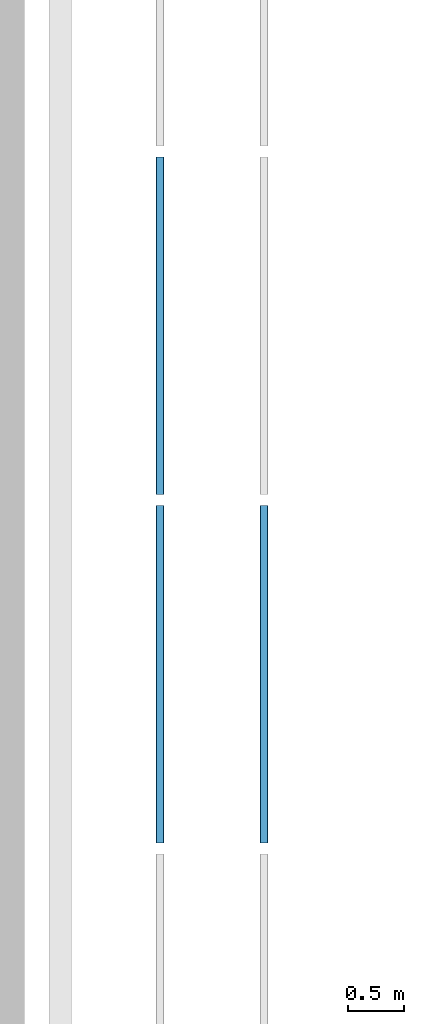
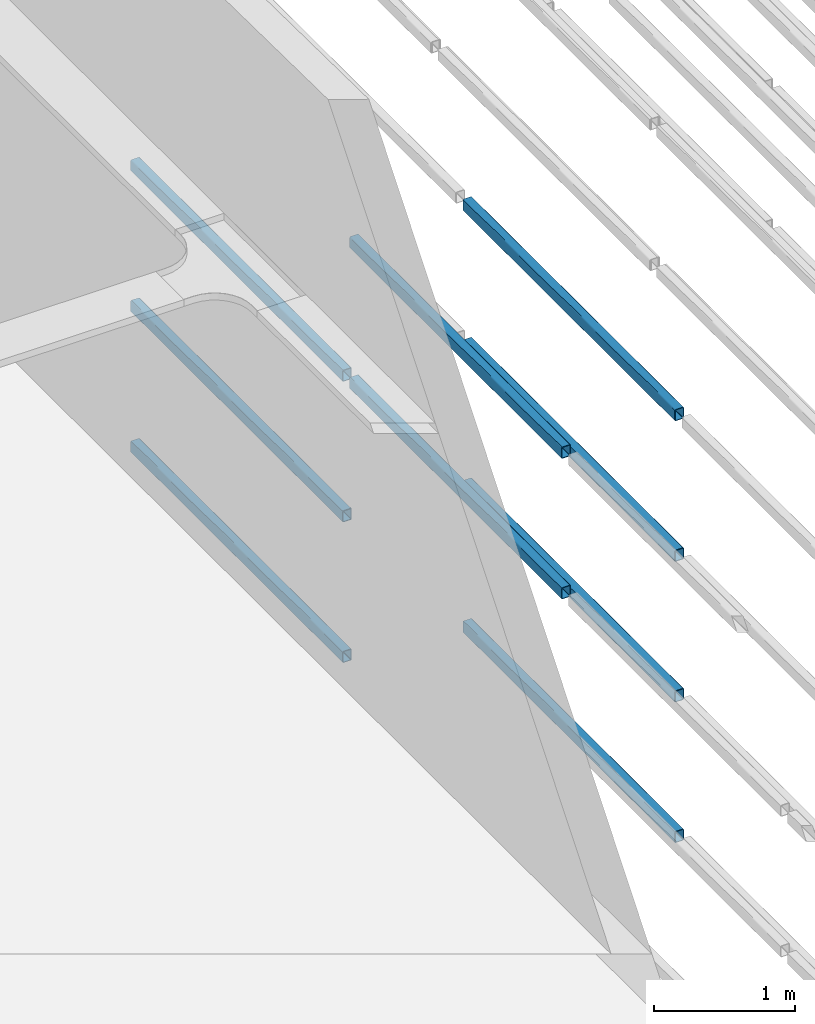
# One storey, part 11 of 290: 9 beams.
"""IFC2X3 building model written with IfcOpenShell, lengths in metres."""

from ifc_helpers import new_model, entity, si_unit, converted_unit, derived_unit, direction, frame, frame_2d, origin, place, context, subcontext, project, spatial, polyline, circle_curve, parameter, trimmed, segment, composite_curve, outline, extrude, material, type_object, element, save


model = new_model("IFC2X3")

# Units and contexts
model_context = context("Model", 3, precision=1e-05, world=origin(), true_north=direction((6.12303176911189e-17, 1.0)))
body_context = subcontext(model_context, "Body", "Model", "MODEL_VIEW")
ifc_project = project(units=[si_unit("LENGTHUNIT", "METRE"), si_unit("AREAUNIT", "SQUARE_METRE"), si_unit("VOLUMEUNIT", "CUBIC_METRE"), converted_unit("PLANEANGLEUNIT", "DEGREE", entity("IfcRatioMeasure", 0.0174532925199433), si_unit("PLANEANGLEUNIT", "RADIAN"), dimensions=[0, 0, 0, 0, 0, 0, 0]), si_unit("MASSUNIT", "GRAM", prefix="KILO"), derived_unit("MASSDENSITYUNIT", [(si_unit("MASSUNIT", "GRAM", prefix="KILO"), 1), (si_unit("LENGTHUNIT", "METRE"), -3)]), derived_unit("MOMENTOFINERTIAUNIT", [(si_unit("LENGTHUNIT", "METRE"), 4)]), si_unit("TIMEUNIT", "SECOND"), si_unit("FREQUENCYUNIT", "HERTZ"), si_unit("THERMODYNAMICTEMPERATUREUNIT", "DEGREE_CELSIUS"), derived_unit("THERMALTRANSMITTANCEUNIT", [(si_unit("MASSUNIT", "GRAM", prefix="KILO"), 1), (si_unit("THERMODYNAMICTEMPERATUREUNIT", "KELVIN"), -1), (si_unit("TIMEUNIT", "SECOND"), -3)]), derived_unit("VOLUMETRICFLOWRATEUNIT", [(si_unit("LENGTHUNIT", "METRE"), 3), (si_unit("TIMEUNIT", "SECOND"), -1)]), si_unit("ELECTRICCURRENTUNIT", "AMPERE"), si_unit("ELECTRICVOLTAGEUNIT", "VOLT"), si_unit("POWERUNIT", "WATT"), si_unit("FORCEUNIT", "NEWTON", prefix="KILO"), si_unit("ILLUMINANCEUNIT", "LUX"), si_unit("LUMINOUSFLUXUNIT", "LUMEN"), si_unit("LUMINOUSINTENSITYUNIT", "CANDELA"), derived_unit("USERDEFINED", [(si_unit("MASSUNIT", "GRAM", prefix="KILO"), -1), (si_unit("LENGTHUNIT", "METRE"), -2), (si_unit("TIMEUNIT", "SECOND"), 3), (si_unit("LUMINOUSFLUXUNIT", "LUMEN"), 1)]), derived_unit("LINEARVELOCITYUNIT", [(si_unit("LENGTHUNIT", "METRE"), 1), (si_unit("TIMEUNIT", "SECOND"), -1)]), si_unit("PRESSUREUNIT", "PASCAL"), derived_unit("USERDEFINED", [(si_unit("LENGTHUNIT", "METRE"), -2), (si_unit("MASSUNIT", "GRAM", prefix="KILO"), 1), (si_unit("TIMEUNIT", "SECOND"), -2)]), derived_unit("LINEARFORCEUNIT", [(si_unit("MASSUNIT", "GRAM", prefix="KILO"), 1), (si_unit("LENGTHUNIT", "METRE"), 1), (si_unit("TIMEUNIT", "SECOND"), -2), (si_unit("LENGTHUNIT", "METRE"), -1)]), derived_unit("PLANARFORCEUNIT", [(si_unit("MASSUNIT", "GRAM", prefix="KILO"), 1), (si_unit("LENGTHUNIT", "METRE"), 1), (si_unit("TIMEUNIT", "SECOND"), -2), (si_unit("LENGTHUNIT", "METRE"), -2)])], contexts=[model_context])

# Site, building, storey
site_placement = place(None, origin())
site = spatial("IfcSite", under=ifc_project, at=site_placement, Name="Default", CompositionType="ELEMENT")
building_placement = place(site_placement, origin())
building = spatial("IfcBuilding", under=site, at=building_placement, CompositionType="ELEMENT")
storey_placement = place(building_placement, frame((0.0, 0.0, 4.0)))
storey = spatial("IfcBuildingStorey", under=building, at=storey_placement, Name="01_OG", CompositionType="ELEMENT", Elevation=4.0)

# Beams
ifc_material = material(Name="Metall - Baustahl S235 blau")
beam_type = type_object("IfcBeamType", Name="RHS Träger (EN 10219-2):RHS 100 x 75 x 5", PredefinedType="NOTDEFINED")
beam_1_placement = place(storey_placement, frame((-206.415111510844, 33.348088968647, 1.23), z_axis=(0.0, 0.0, 1.0), x_axis=(0.0, 1.0, 0.0)))
element("IfcBeam", 1, at=beam_1_placement, inside=storey, type_object=beam_type, material=ifc_material, Name="RHS Träger (EN 10219-2):RHS 100 x 75 x 5", ObjectType="RHS Träger (EN 10219-2):RHS 100 x 75 x 5", context=body_context, shape_type="SweptSolid", body=[
    extrude(outline(composite_curve([segment(trimmed(circle_curve(frame_2d((-0.0274999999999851, -0.0399999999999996), x_axis=(1.0, 0.0)), 0.01), [parameter(180.0)], [parameter(270.0)], True, "PARAMETER"), True, "CONTINUOUS"), segment(polyline([(-0.0274999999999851, -0.0499999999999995), (0.0274999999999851, -0.0499999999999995)]), True, "CONTINUOUS"), segment(trimmed(circle_curve(frame_2d((0.0274999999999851, -0.0399999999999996), x_axis=(1.0, 0.0)), 0.01), [parameter(270.0)], [parameter(5.08888749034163e-14)], True, "PARAMETER"), True, "CONTINUOUS"), segment(polyline([(0.0375000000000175, -0.0399999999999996), (0.0375000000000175, 0.0399999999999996)]), True, "CONTINUOUS"), segment(trimmed(circle_curve(frame_2d((0.0274999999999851, 0.0399999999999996), x_axis=(1.0, 0.0)), 0.01), [parameter(360.0)], [parameter(89.9999999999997)], True, "PARAMETER"), True, "CONTINUOUS"), segment(polyline([(0.0274999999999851, 0.0500000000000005), (-0.0274999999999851, 0.0500000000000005)]), True, "CONTINUOUS"), segment(trimmed(circle_curve(frame_2d((-0.0274999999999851, 0.0399999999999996), x_axis=(1.0, 0.0)), 0.01), [parameter(90.0000000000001)], [parameter(180.0)], True, "PARAMETER"), True, "CONTINUOUS"), segment(polyline([(-0.0374999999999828, 0.0399999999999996), (-0.0374999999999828, -0.0399999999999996)]), True, "CONTINUOUS")], self_intersect=False), holes=[composite_curve([segment(polyline([(0.0274999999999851, -0.0450000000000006), (-0.0274999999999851, -0.0450000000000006)]), True, "CONTINUOUS"), segment(trimmed(circle_curve(frame_2d((-0.0274999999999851, -0.0400000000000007), x_axis=(1.0, 0.0)), 0.005), [parameter(180.0)], [parameter(270.0)], True, "PARAMETER"), False, "CONTINUOUS"), segment(polyline([(-0.0325000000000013, -0.0400000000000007), (-0.0325000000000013, 0.0399999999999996)]), True, "CONTINUOUS"), segment(trimmed(circle_curve(frame_2d((-0.0274999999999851, 0.0399999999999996), x_axis=(1.0, 0.0)), 0.005), [parameter(90.0000000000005)], [parameter(180.0)], True, "PARAMETER"), False, "CONTINUOUS"), segment(polyline([(-0.0274999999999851, 0.0449999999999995), (0.0274999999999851, 0.0449999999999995)]), True, "CONTINUOUS"), segment(trimmed(circle_curve(frame_2d((0.0274999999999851, 0.0399999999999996), x_axis=(1.0, 0.0)), 0.005), [parameter(0.0)], [parameter(90.0000000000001)], True, "PARAMETER"), False, "CONTINUOUS"), segment(polyline([(0.0325000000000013, 0.0399999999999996), (0.0325000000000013, -0.0400000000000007)]), True, "CONTINUOUS"), segment(trimmed(circle_curve(frame_2d((0.0274999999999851, -0.0400000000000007), x_axis=(1.0, 0.0)), 0.005), [parameter(270.0)], [parameter(4.07110999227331e-13)], True, "PARAMETER"), False, "CONTINUOUS")], self_intersect=False)]), frame((9.99999999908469e-05, 0.0375000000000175, -0.0500000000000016), z_axis=(1.0, 0.0, 0.0), x_axis=(0.0, -1.0, 0.0)), (0.0, 0.0, 1.0), 2.9998),
])
beam_2_placement = place(storey_placement, frame((-206.415111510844, 33.348088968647, 2.445), z_axis=(0.0, 0.0, 1.0), x_axis=(0.0, 1.0, 0.0)))
element("IfcBeam", 2, at=beam_2_placement, inside=storey, type_object=beam_type, material=ifc_material, Name="RHS Träger (EN 10219-2):RHS 100 x 75 x 5", ObjectType="RHS Träger (EN 10219-2):RHS 100 x 75 x 5", context=body_context, shape_type="SweptSolid", body=[
    extrude(outline(composite_curve([segment(trimmed(circle_curve(frame_2d((-0.0274999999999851, -0.0399999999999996), x_axis=(1.0, 0.0)), 0.01), [parameter(180.0)], [parameter(270.0)], True, "PARAMETER"), True, "CONTINUOUS"), segment(polyline([(-0.0274999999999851, -0.0499999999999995), (0.0274999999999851, -0.0499999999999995)]), True, "CONTINUOUS"), segment(trimmed(circle_curve(frame_2d((0.0274999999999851, -0.0399999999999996), x_axis=(1.0, 0.0)), 0.01), [parameter(270.0)], [parameter(5.08888749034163e-14)], True, "PARAMETER"), True, "CONTINUOUS"), segment(polyline([(0.0375000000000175, -0.0399999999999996), (0.0375000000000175, 0.0399999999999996)]), True, "CONTINUOUS"), segment(trimmed(circle_curve(frame_2d((0.0274999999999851, 0.0399999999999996), x_axis=(1.0, 0.0)), 0.01), [parameter(360.0)], [parameter(89.9999999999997)], True, "PARAMETER"), True, "CONTINUOUS"), segment(polyline([(0.0274999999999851, 0.0500000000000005), (-0.0274999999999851, 0.0500000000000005)]), True, "CONTINUOUS"), segment(trimmed(circle_curve(frame_2d((-0.0274999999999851, 0.0399999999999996), x_axis=(1.0, 0.0)), 0.01), [parameter(90.0000000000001)], [parameter(180.0)], True, "PARAMETER"), True, "CONTINUOUS"), segment(polyline([(-0.0374999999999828, 0.0399999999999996), (-0.0374999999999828, -0.0399999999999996)]), True, "CONTINUOUS")], self_intersect=False), holes=[composite_curve([segment(polyline([(0.0274999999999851, -0.0450000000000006), (-0.0274999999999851, -0.0450000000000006)]), True, "CONTINUOUS"), segment(trimmed(circle_curve(frame_2d((-0.0274999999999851, -0.0400000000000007), x_axis=(1.0, 0.0)), 0.005), [parameter(180.0)], [parameter(270.0)], True, "PARAMETER"), False, "CONTINUOUS"), segment(polyline([(-0.0325000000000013, -0.0400000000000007), (-0.0325000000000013, 0.0399999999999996)]), True, "CONTINUOUS"), segment(trimmed(circle_curve(frame_2d((-0.0274999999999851, 0.0399999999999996), x_axis=(1.0, 0.0)), 0.005), [parameter(90.0000000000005)], [parameter(180.0)], True, "PARAMETER"), False, "CONTINUOUS"), segment(polyline([(-0.0274999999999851, 0.0449999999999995), (0.0274999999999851, 0.0449999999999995)]), True, "CONTINUOUS"), segment(trimmed(circle_curve(frame_2d((0.0274999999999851, 0.0399999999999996), x_axis=(1.0, 0.0)), 0.005), [parameter(0.0)], [parameter(90.0000000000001)], True, "PARAMETER"), False, "CONTINUOUS"), segment(polyline([(0.0325000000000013, 0.0399999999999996), (0.0325000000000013, -0.0400000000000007)]), True, "CONTINUOUS"), segment(trimmed(circle_curve(frame_2d((0.0274999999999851, -0.0400000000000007), x_axis=(1.0, 0.0)), 0.005), [parameter(270.0)], [parameter(4.07110999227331e-13)], True, "PARAMETER"), False, "CONTINUOUS")], self_intersect=False)]), frame((9.99999999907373e-05, 0.0375000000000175, -0.0500000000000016), z_axis=(1.0, 0.0, 0.0), x_axis=(0.0, -1.0, 0.0)), (0.0, 0.0, 1.0), 2.9998),
])
beam_3_placement = place(storey_placement, frame((-205.565111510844, 33.348088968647, -1.2), z_axis=(0.0, 0.0, 1.0), x_axis=(0.0, 1.0, 0.0)))
element("IfcBeam", 3, at=beam_3_placement, inside=storey, type_object=beam_type, material=ifc_material, Name="RHS Träger (EN 10219-2):RHS 100 x 75 x 5", ObjectType="RHS Träger (EN 10219-2):RHS 100 x 75 x 5", context=body_context, shape_type="SweptSolid", body=[
    extrude(outline(composite_curve([segment(polyline([(-0.0400000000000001, -0.0374999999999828), (0.0400000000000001, -0.0374999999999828)]), True, "CONTINUOUS"), segment(trimmed(circle_curve(frame_2d((0.0400000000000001, -0.0274999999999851), x_axis=(0.0, 1.0)), 0.01), [parameter(180.0)], [parameter(270.0)], True, "PARAMETER"), True, "CONTINUOUS"), segment(polyline([(0.05, -0.0274999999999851), (0.05, 0.0274999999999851)]), True, "CONTINUOUS"), segment(trimmed(circle_curve(frame_2d((0.0400000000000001, 0.0274999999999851), x_axis=(0.0, 1.0)), 0.01), [parameter(270.0)], [parameter(4.07110999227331e-13)], True, "PARAMETER"), True, "CONTINUOUS"), segment(polyline([(0.0400000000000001, 0.0375000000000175), (-0.0400000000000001, 0.0375000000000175)]), True, "CONTINUOUS"), segment(trimmed(circle_curve(frame_2d((-0.0400000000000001, 0.0274999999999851), x_axis=(0.0, 1.0)), 0.01), [parameter(360.0)], [parameter(90.0000000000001)], True, "PARAMETER"), True, "CONTINUOUS"), segment(polyline([(-0.05, 0.0274999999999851), (-0.05, -0.0274999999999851)]), True, "CONTINUOUS"), segment(trimmed(circle_curve(frame_2d((-0.0400000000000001, -0.0274999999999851), x_axis=(0.0, 1.0)), 0.01), [parameter(90.0000000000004)], [parameter(180.0)], True, "PARAMETER"), True, "CONTINUOUS")], self_intersect=False), holes=[composite_curve([segment(trimmed(circle_curve(frame_2d((-0.0400000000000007, 0.0274999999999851), x_axis=(0.0, 1.0)), 0.005), [parameter(360.0)], [parameter(89.9999999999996)], True, "PARAMETER"), False, "CONTINUOUS"), segment(polyline([(-0.0400000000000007, 0.0325000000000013), (0.039999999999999, 0.0325000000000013)]), True, "CONTINUOUS"), segment(trimmed(circle_curve(frame_2d((0.039999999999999, 0.0274999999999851), x_axis=(0.0, 1.0)), 0.005), [parameter(270.0)], [parameter(0.0)], True, "PARAMETER"), False, "CONTINUOUS"), segment(polyline([(0.044999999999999, 0.0274999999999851), (0.044999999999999, -0.0274999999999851)]), True, "CONTINUOUS"), segment(trimmed(circle_curve(frame_2d((0.039999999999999, -0.0274999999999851), x_axis=(0.0, 1.0)), 0.005), [parameter(180.0)], [parameter(269.999999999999)], True, "PARAMETER"), False, "CONTINUOUS"), segment(polyline([(0.039999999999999, -0.0325000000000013), (-0.0400000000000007, -0.0325000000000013)]), True, "CONTINUOUS"), segment(trimmed(circle_curve(frame_2d((-0.0400000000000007, -0.0274999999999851), x_axis=(0.0, 1.0)), 0.005), [parameter(90.0000000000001)], [parameter(180.0)], True, "PARAMETER"), False, "CONTINUOUS"), segment(polyline([(-0.0450000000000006, -0.0274999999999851), (-0.0450000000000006, 0.0274999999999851)]), True, "CONTINUOUS")], self_intersect=False)]), frame((9.99999999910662e-05, -0.0375000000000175, -0.0500000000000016), z_axis=(1.0, 0.0, 0.0), x_axis=(0.0, 0.0, -1.0)), (0.0, 0.0, 1.0), 2.9998),
])
beam_4_placement = place(storey_placement, frame((-205.565111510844, 33.348088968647, 0.0150000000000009), z_axis=(0.0, 0.0, 1.0), x_axis=(0.0, 1.0, 0.0)))
element("IfcBeam", 4, at=beam_4_placement, inside=storey, type_object=beam_type, material=ifc_material, Name="RHS Träger (EN 10219-2):RHS 100 x 75 x 5", ObjectType="RHS Träger (EN 10219-2):RHS 100 x 75 x 5", context=body_context, shape_type="SweptSolid", body=[
    extrude(outline(composite_curve([segment(polyline([(-0.0400000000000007, -0.0374999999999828), (0.0399999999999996, -0.0374999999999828)]), True, "CONTINUOUS"), segment(trimmed(circle_curve(frame_2d((0.0399999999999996, -0.0274999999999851), x_axis=(0.0, 1.0)), 0.01), [parameter(180.0)], [parameter(270.0)], True, "PARAMETER"), True, "CONTINUOUS"), segment(polyline([(0.0499999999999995, -0.0274999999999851), (0.0499999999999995, 0.0274999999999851)]), True, "CONTINUOUS"), segment(trimmed(circle_curve(frame_2d((0.0399999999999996, 0.0274999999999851), x_axis=(0.0, 1.0)), 0.01), [parameter(270.0)], [parameter(4.07110999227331e-13)], True, "PARAMETER"), True, "CONTINUOUS"), segment(polyline([(0.0399999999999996, 0.0375000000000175), (-0.0400000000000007, 0.0375000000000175)]), True, "CONTINUOUS"), segment(trimmed(circle_curve(frame_2d((-0.0400000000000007, 0.0274999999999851), x_axis=(0.0, 1.0)), 0.01), [parameter(360.0)], [parameter(90.0000000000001)], True, "PARAMETER"), True, "CONTINUOUS"), segment(polyline([(-0.0500000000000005, 0.0274999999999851), (-0.0500000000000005, -0.0274999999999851)]), True, "CONTINUOUS"), segment(trimmed(circle_curve(frame_2d((-0.0400000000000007, -0.0274999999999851), x_axis=(0.0, 1.0)), 0.01), [parameter(90.0000000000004)], [parameter(180.0)], True, "PARAMETER"), True, "CONTINUOUS")], self_intersect=False), holes=[composite_curve([segment(trimmed(circle_curve(frame_2d((-0.0400000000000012, 0.0274999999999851), x_axis=(0.0, 1.0)), 0.005), [parameter(360.0)], [parameter(89.9999999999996)], True, "PARAMETER"), False, "CONTINUOUS"), segment(polyline([(-0.0400000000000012, 0.0325000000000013), (0.0399999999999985, 0.0325000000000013)]), True, "CONTINUOUS"), segment(trimmed(circle_curve(frame_2d((0.0399999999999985, 0.0274999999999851), x_axis=(0.0, 1.0)), 0.005), [parameter(270.0)], [parameter(0.0)], True, "PARAMETER"), False, "CONTINUOUS"), segment(polyline([(0.0449999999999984, 0.0274999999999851), (0.0449999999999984, -0.0274999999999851)]), True, "CONTINUOUS"), segment(trimmed(circle_curve(frame_2d((0.0399999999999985, -0.0274999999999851), x_axis=(0.0, 1.0)), 0.005), [parameter(180.0)], [parameter(269.999999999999)], True, "PARAMETER"), False, "CONTINUOUS"), segment(polyline([(0.0399999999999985, -0.0325000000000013), (-0.0400000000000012, -0.0325000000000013)]), True, "CONTINUOUS"), segment(trimmed(circle_curve(frame_2d((-0.0400000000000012, -0.0274999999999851), x_axis=(0.0, 1.0)), 0.005), [parameter(90.0000000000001)], [parameter(180.0)], True, "PARAMETER"), False, "CONTINUOUS"), segment(polyline([(-0.0450000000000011, -0.0274999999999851), (-0.0450000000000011, 0.0274999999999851)]), True, "CONTINUOUS")], self_intersect=False)]), frame((9.99999999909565e-05, -0.0375000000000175, -0.0500000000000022), z_axis=(1.0, 0.0, 0.0), x_axis=(0.0, 0.0, -1.0)), (0.0, 0.0, 1.0), 2.9998),
])
beam_5_placement = place(storey_placement, frame((-205.565111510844, 33.348088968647, 1.23), z_axis=(0.0, 0.0, 1.0), x_axis=(0.0, 1.0, 0.0)))
element("IfcBeam", 5, at=beam_5_placement, inside=storey, type_object=beam_type, material=ifc_material, Name="RHS Träger (EN 10219-2):RHS 100 x 75 x 5", ObjectType="RHS Träger (EN 10219-2):RHS 100 x 75 x 5", context=body_context, shape_type="SweptSolid", body=[
    extrude(outline(composite_curve([segment(polyline([(-0.0399999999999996, -0.0374999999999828), (0.0399999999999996, -0.0374999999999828)]), True, "CONTINUOUS"), segment(trimmed(circle_curve(frame_2d((0.0399999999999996, -0.0274999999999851), x_axis=(0.0, 1.0)), 0.01), [parameter(180.0)], [parameter(270.0)], True, "PARAMETER"), True, "CONTINUOUS"), segment(polyline([(0.0500000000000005, -0.0274999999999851), (0.0500000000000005, 0.0274999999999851)]), True, "CONTINUOUS"), segment(trimmed(circle_curve(frame_2d((0.0399999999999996, 0.0274999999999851), x_axis=(0.0, 1.0)), 0.01), [parameter(270.0)], [parameter(4.07110999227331e-13)], True, "PARAMETER"), True, "CONTINUOUS"), segment(polyline([(0.0399999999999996, 0.0375000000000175), (-0.0399999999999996, 0.0375000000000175)]), True, "CONTINUOUS"), segment(trimmed(circle_curve(frame_2d((-0.0399999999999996, 0.0274999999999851), x_axis=(0.0, 1.0)), 0.01), [parameter(360.0)], [parameter(90.0000000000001)], True, "PARAMETER"), True, "CONTINUOUS"), segment(polyline([(-0.0499999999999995, 0.0274999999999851), (-0.0499999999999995, -0.0274999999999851)]), True, "CONTINUOUS"), segment(trimmed(circle_curve(frame_2d((-0.0399999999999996, -0.0274999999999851), x_axis=(0.0, 1.0)), 0.01), [parameter(90.0000000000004)], [parameter(180.0)], True, "PARAMETER"), True, "CONTINUOUS")], self_intersect=False), holes=[composite_curve([segment(trimmed(circle_curve(frame_2d((-0.0400000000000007, 0.0274999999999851), x_axis=(0.0, 1.0)), 0.005), [parameter(360.0)], [parameter(89.9999999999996)], True, "PARAMETER"), False, "CONTINUOUS"), segment(polyline([(-0.0400000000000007, 0.0325000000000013), (0.0399999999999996, 0.0325000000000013)]), True, "CONTINUOUS"), segment(trimmed(circle_curve(frame_2d((0.0399999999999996, 0.0274999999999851), x_axis=(0.0, 1.0)), 0.005), [parameter(270.0)], [parameter(0.0)], True, "PARAMETER"), False, "CONTINUOUS"), segment(polyline([(0.0449999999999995, 0.0274999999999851), (0.0449999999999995, -0.0274999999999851)]), True, "CONTINUOUS"), segment(trimmed(circle_curve(frame_2d((0.0399999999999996, -0.0274999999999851), x_axis=(0.0, 1.0)), 0.005), [parameter(180.0)], [parameter(269.999999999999)], True, "PARAMETER"), False, "CONTINUOUS"), segment(polyline([(0.0399999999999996, -0.0325000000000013), (-0.0400000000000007, -0.0325000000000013)]), True, "CONTINUOUS"), segment(trimmed(circle_curve(frame_2d((-0.0400000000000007, -0.0274999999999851), x_axis=(0.0, 1.0)), 0.005), [parameter(90.0000000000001)], [parameter(180.0)], True, "PARAMETER"), False, "CONTINUOUS"), segment(polyline([(-0.0450000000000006, -0.0274999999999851), (-0.0450000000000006, 0.0274999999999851)]), True, "CONTINUOUS")], self_intersect=False)]), frame((9.99999999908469e-05, -0.0375000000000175, -0.0500000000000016), z_axis=(1.0, 0.0, 0.0), x_axis=(0.0, 0.0, -1.0)), (0.0, 0.0, 1.0), 2.9998),
])
beam_6_placement = place(storey_placement, frame((-205.565111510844, 33.348088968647, 2.445), z_axis=(0.0, 0.0, 1.0), x_axis=(0.0, 1.0, 0.0)))
element("IfcBeam", 6, at=beam_6_placement, inside=storey, type_object=beam_type, material=ifc_material, Name="RHS Träger (EN 10219-2):RHS 100 x 75 x 5", ObjectType="RHS Träger (EN 10219-2):RHS 100 x 75 x 5", context=body_context, shape_type="SweptSolid", body=[
    extrude(outline(composite_curve([segment(polyline([(-0.0399999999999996, -0.0374999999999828), (0.0399999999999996, -0.0374999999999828)]), True, "CONTINUOUS"), segment(trimmed(circle_curve(frame_2d((0.0399999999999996, -0.0274999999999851), x_axis=(0.0, 1.0)), 0.01), [parameter(180.0)], [parameter(270.0)], True, "PARAMETER"), True, "CONTINUOUS"), segment(polyline([(0.0500000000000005, -0.0274999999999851), (0.0500000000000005, 0.0274999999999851)]), True, "CONTINUOUS"), segment(trimmed(circle_curve(frame_2d((0.0399999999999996, 0.0274999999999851), x_axis=(0.0, 1.0)), 0.01), [parameter(270.0)], [parameter(4.07110999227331e-13)], True, "PARAMETER"), True, "CONTINUOUS"), segment(polyline([(0.0399999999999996, 0.0375000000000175), (-0.0399999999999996, 0.0375000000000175)]), True, "CONTINUOUS"), segment(trimmed(circle_curve(frame_2d((-0.0399999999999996, 0.0274999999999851), x_axis=(0.0, 1.0)), 0.01), [parameter(360.0)], [parameter(90.0000000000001)], True, "PARAMETER"), True, "CONTINUOUS"), segment(polyline([(-0.0499999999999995, 0.0274999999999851), (-0.0499999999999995, -0.0274999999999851)]), True, "CONTINUOUS"), segment(trimmed(circle_curve(frame_2d((-0.0399999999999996, -0.0274999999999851), x_axis=(0.0, 1.0)), 0.01), [parameter(90.0000000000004)], [parameter(180.0)], True, "PARAMETER"), True, "CONTINUOUS")], self_intersect=False), holes=[composite_curve([segment(trimmed(circle_curve(frame_2d((-0.0400000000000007, 0.0274999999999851), x_axis=(0.0, 1.0)), 0.005), [parameter(360.0)], [parameter(89.9999999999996)], True, "PARAMETER"), False, "CONTINUOUS"), segment(polyline([(-0.0400000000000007, 0.0325000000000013), (0.0399999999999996, 0.0325000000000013)]), True, "CONTINUOUS"), segment(trimmed(circle_curve(frame_2d((0.0399999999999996, 0.0274999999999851), x_axis=(0.0, 1.0)), 0.005), [parameter(270.0)], [parameter(0.0)], True, "PARAMETER"), False, "CONTINUOUS"), segment(polyline([(0.0449999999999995, 0.0274999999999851), (0.0449999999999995, -0.0274999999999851)]), True, "CONTINUOUS"), segment(trimmed(circle_curve(frame_2d((0.0399999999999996, -0.0274999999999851), x_axis=(0.0, 1.0)), 0.005), [parameter(180.0)], [parameter(269.999999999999)], True, "PARAMETER"), False, "CONTINUOUS"), segment(polyline([(0.0399999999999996, -0.0325000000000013), (-0.0400000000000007, -0.0325000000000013)]), True, "CONTINUOUS"), segment(trimmed(circle_curve(frame_2d((-0.0400000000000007, -0.0274999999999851), x_axis=(0.0, 1.0)), 0.005), [parameter(90.0000000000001)], [parameter(180.0)], True, "PARAMETER"), False, "CONTINUOUS"), segment(polyline([(-0.0450000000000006, -0.0274999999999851), (-0.0450000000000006, 0.0274999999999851)]), True, "CONTINUOUS")], self_intersect=False)]), frame((9.99999999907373e-05, -0.0375000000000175, -0.0500000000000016), z_axis=(1.0, 0.0, 0.0), x_axis=(0.0, 0.0, -1.0)), (0.0, 0.0, 1.0), 2.9998),
])
beam_7_placement = place(storey_placement, frame((-206.415111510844, 36.448088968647, -1.2), z_axis=(0.0, 0.0, 1.0), x_axis=(0.0, 1.0, 0.0)))
element("IfcBeam", 7, at=beam_7_placement, inside=storey, type_object=beam_type, material=ifc_material, Name="RHS Träger (EN 10219-2):RHS 100 x 75 x 5", ObjectType="RHS Träger (EN 10219-2):RHS 100 x 75 x 5", context=body_context, shape_type="SweptSolid", body=[
    extrude(outline(composite_curve([segment(trimmed(circle_curve(frame_2d((-0.0274999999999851, -0.0400000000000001), x_axis=(1.0, 0.0)), 0.01), [parameter(180.0)], [parameter(270.0)], True, "PARAMETER"), True, "CONTINUOUS"), segment(polyline([(-0.0274999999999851, -0.05), (0.0274999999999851, -0.05)]), True, "CONTINUOUS"), segment(trimmed(circle_curve(frame_2d((0.0274999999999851, -0.0400000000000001), x_axis=(1.0, 0.0)), 0.01), [parameter(270.0)], [parameter(5.08888749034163e-14)], True, "PARAMETER"), True, "CONTINUOUS"), segment(polyline([(0.0375000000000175, -0.0400000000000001), (0.0375000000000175, 0.0400000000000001)]), True, "CONTINUOUS"), segment(trimmed(circle_curve(frame_2d((0.0274999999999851, 0.0400000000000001), x_axis=(1.0, 0.0)), 0.01), [parameter(360.0)], [parameter(89.9999999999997)], True, "PARAMETER"), True, "CONTINUOUS"), segment(polyline([(0.0274999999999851, 0.05), (-0.0274999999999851, 0.05)]), True, "CONTINUOUS"), segment(trimmed(circle_curve(frame_2d((-0.0274999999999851, 0.0400000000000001), x_axis=(1.0, 0.0)), 0.01), [parameter(90.0000000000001)], [parameter(180.0)], True, "PARAMETER"), True, "CONTINUOUS"), segment(polyline([(-0.0374999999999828, 0.0400000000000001), (-0.0374999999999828, -0.0400000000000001)]), True, "CONTINUOUS")], self_intersect=False), holes=[composite_curve([segment(polyline([(0.0274999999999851, -0.0450000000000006), (-0.0274999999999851, -0.0450000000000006)]), True, "CONTINUOUS"), segment(trimmed(circle_curve(frame_2d((-0.0274999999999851, -0.0400000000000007), x_axis=(1.0, 0.0)), 0.005), [parameter(180.0)], [parameter(270.0)], True, "PARAMETER"), False, "CONTINUOUS"), segment(polyline([(-0.0325000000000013, -0.0400000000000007), (-0.0325000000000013, 0.039999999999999)]), True, "CONTINUOUS"), segment(trimmed(circle_curve(frame_2d((-0.0274999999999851, 0.039999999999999), x_axis=(1.0, 0.0)), 0.005), [parameter(90.0000000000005)], [parameter(180.0)], True, "PARAMETER"), False, "CONTINUOUS"), segment(polyline([(-0.0274999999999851, 0.044999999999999), (0.0274999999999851, 0.044999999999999)]), True, "CONTINUOUS"), segment(trimmed(circle_curve(frame_2d((0.0274999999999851, 0.039999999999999), x_axis=(1.0, 0.0)), 0.005), [parameter(0.0)], [parameter(90.0000000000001)], True, "PARAMETER"), False, "CONTINUOUS"), segment(polyline([(0.0325000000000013, 0.039999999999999), (0.0325000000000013, -0.0400000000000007)]), True, "CONTINUOUS"), segment(trimmed(circle_curve(frame_2d((0.0274999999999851, -0.0400000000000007), x_axis=(1.0, 0.0)), 0.005), [parameter(270.0)], [parameter(4.07110999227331e-13)], True, "PARAMETER"), False, "CONTINUOUS")], self_intersect=False)]), frame((0.000100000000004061, 0.0375000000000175, -0.0500000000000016), z_axis=(1.0, 0.0, 0.0), x_axis=(0.0, -1.0, 0.0)), (0.0, 0.0, 1.0), 2.9998),
])
beam_8_placement = place(storey_placement, frame((-206.415111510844, 36.448088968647, 0.0150000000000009), z_axis=(0.0, 0.0, 1.0), x_axis=(0.0, 1.0, 0.0)))
element("IfcBeam", 8, at=beam_8_placement, inside=storey, type_object=beam_type, material=ifc_material, Name="RHS Träger (EN 10219-2):RHS 100 x 75 x 5", ObjectType="RHS Träger (EN 10219-2):RHS 100 x 75 x 5", context=body_context, shape_type="SweptSolid", body=[
    extrude(outline(composite_curve([segment(trimmed(circle_curve(frame_2d((-0.0274999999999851, -0.0400000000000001), x_axis=(1.0, 0.0)), 0.01), [parameter(180.0)], [parameter(270.0)], True, "PARAMETER"), True, "CONTINUOUS"), segment(polyline([(-0.0274999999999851, -0.05), (0.0274999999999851, -0.05)]), True, "CONTINUOUS"), segment(trimmed(circle_curve(frame_2d((0.0274999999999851, -0.0400000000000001), x_axis=(1.0, 0.0)), 0.01), [parameter(270.0)], [parameter(5.08888749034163e-14)], True, "PARAMETER"), True, "CONTINUOUS"), segment(polyline([(0.0375000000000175, -0.0400000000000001), (0.0375000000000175, 0.0400000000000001)]), True, "CONTINUOUS"), segment(trimmed(circle_curve(frame_2d((0.0274999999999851, 0.0400000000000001), x_axis=(1.0, 0.0)), 0.01), [parameter(360.0)], [parameter(89.9999999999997)], True, "PARAMETER"), True, "CONTINUOUS"), segment(polyline([(0.0274999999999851, 0.05), (-0.0274999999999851, 0.05)]), True, "CONTINUOUS"), segment(trimmed(circle_curve(frame_2d((-0.0274999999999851, 0.0400000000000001), x_axis=(1.0, 0.0)), 0.01), [parameter(90.0000000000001)], [parameter(180.0)], True, "PARAMETER"), True, "CONTINUOUS"), segment(polyline([(-0.0374999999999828, 0.0400000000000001), (-0.0374999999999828, -0.0400000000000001)]), True, "CONTINUOUS")], self_intersect=False), holes=[composite_curve([segment(polyline([(0.0274999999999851, -0.0450000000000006), (-0.0274999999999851, -0.0450000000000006)]), True, "CONTINUOUS"), segment(trimmed(circle_curve(frame_2d((-0.0274999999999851, -0.0400000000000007), x_axis=(1.0, 0.0)), 0.005), [parameter(180.0)], [parameter(270.0)], True, "PARAMETER"), False, "CONTINUOUS"), segment(polyline([(-0.0325000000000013, -0.0400000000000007), (-0.0325000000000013, 0.039999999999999)]), True, "CONTINUOUS"), segment(trimmed(circle_curve(frame_2d((-0.0274999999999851, 0.039999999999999), x_axis=(1.0, 0.0)), 0.005), [parameter(90.0000000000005)], [parameter(180.0)], True, "PARAMETER"), False, "CONTINUOUS"), segment(polyline([(-0.0274999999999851, 0.044999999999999), (0.0274999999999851, 0.044999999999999)]), True, "CONTINUOUS"), segment(trimmed(circle_curve(frame_2d((0.0274999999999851, 0.039999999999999), x_axis=(1.0, 0.0)), 0.005), [parameter(0.0)], [parameter(90.0000000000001)], True, "PARAMETER"), False, "CONTINUOUS"), segment(polyline([(0.0325000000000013, 0.039999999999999), (0.0325000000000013, -0.0400000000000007)]), True, "CONTINUOUS"), segment(trimmed(circle_curve(frame_2d((0.0274999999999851, -0.0400000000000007), x_axis=(1.0, 0.0)), 0.005), [parameter(270.0)], [parameter(4.07110999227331e-13)], True, "PARAMETER"), False, "CONTINUOUS")], self_intersect=False)]), frame((0.000100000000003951, 0.0375000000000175, -0.0500000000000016), z_axis=(1.0, 0.0, 0.0), x_axis=(0.0, -1.0, 0.0)), (0.0, 0.0, 1.0), 2.9998),
])
beam_9_placement = place(storey_placement, frame((-206.415111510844, 36.448088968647, 1.23), z_axis=(0.0, 0.0, 1.0), x_axis=(0.0, 1.0, 0.0)))
element("IfcBeam", 9, at=beam_9_placement, inside=storey, type_object=beam_type, material=ifc_material, Name="RHS Träger (EN 10219-2):RHS 100 x 75 x 5", ObjectType="RHS Träger (EN 10219-2):RHS 100 x 75 x 5", context=body_context, shape_type="SweptSolid", body=[
    extrude(outline(composite_curve([segment(trimmed(circle_curve(frame_2d((-0.0274999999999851, -0.0399999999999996), x_axis=(1.0, 0.0)), 0.01), [parameter(180.0)], [parameter(270.0)], True, "PARAMETER"), True, "CONTINUOUS"), segment(polyline([(-0.0274999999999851, -0.0499999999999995), (0.0274999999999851, -0.0499999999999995)]), True, "CONTINUOUS"), segment(trimmed(circle_curve(frame_2d((0.0274999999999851, -0.0399999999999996), x_axis=(1.0, 0.0)), 0.01), [parameter(270.0)], [parameter(5.08888749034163e-14)], True, "PARAMETER"), True, "CONTINUOUS"), segment(polyline([(0.0375000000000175, -0.0399999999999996), (0.0375000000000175, 0.0399999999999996)]), True, "CONTINUOUS"), segment(trimmed(circle_curve(frame_2d((0.0274999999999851, 0.0399999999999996), x_axis=(1.0, 0.0)), 0.01), [parameter(360.0)], [parameter(89.9999999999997)], True, "PARAMETER"), True, "CONTINUOUS"), segment(polyline([(0.0274999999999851, 0.0500000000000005), (-0.0274999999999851, 0.0500000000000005)]), True, "CONTINUOUS"), segment(trimmed(circle_curve(frame_2d((-0.0274999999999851, 0.0399999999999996), x_axis=(1.0, 0.0)), 0.01), [parameter(90.0000000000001)], [parameter(180.0)], True, "PARAMETER"), True, "CONTINUOUS"), segment(polyline([(-0.0374999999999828, 0.0399999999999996), (-0.0374999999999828, -0.0399999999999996)]), True, "CONTINUOUS")], self_intersect=False), holes=[composite_curve([segment(polyline([(0.0274999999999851, -0.0450000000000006), (-0.0274999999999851, -0.0450000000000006)]), True, "CONTINUOUS"), segment(trimmed(circle_curve(frame_2d((-0.0274999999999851, -0.0400000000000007), x_axis=(1.0, 0.0)), 0.005), [parameter(180.0)], [parameter(270.0)], True, "PARAMETER"), False, "CONTINUOUS"), segment(polyline([(-0.0325000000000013, -0.0400000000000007), (-0.0325000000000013, 0.0399999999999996)]), True, "CONTINUOUS"), segment(trimmed(circle_curve(frame_2d((-0.0274999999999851, 0.0399999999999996), x_axis=(1.0, 0.0)), 0.005), [parameter(90.0000000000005)], [parameter(180.0)], True, "PARAMETER"), False, "CONTINUOUS"), segment(polyline([(-0.0274999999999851, 0.0449999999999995), (0.0274999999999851, 0.0449999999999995)]), True, "CONTINUOUS"), segment(trimmed(circle_curve(frame_2d((0.0274999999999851, 0.0399999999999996), x_axis=(1.0, 0.0)), 0.005), [parameter(0.0)], [parameter(90.0000000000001)], True, "PARAMETER"), False, "CONTINUOUS"), segment(polyline([(0.0325000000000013, 0.0399999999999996), (0.0325000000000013, -0.0400000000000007)]), True, "CONTINUOUS"), segment(trimmed(circle_curve(frame_2d((0.0274999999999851, -0.0400000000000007), x_axis=(1.0, 0.0)), 0.005), [parameter(270.0)], [parameter(4.07110999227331e-13)], True, "PARAMETER"), False, "CONTINUOUS")], self_intersect=False)]), frame((0.000100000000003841, 0.0375000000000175, -0.0500000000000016), z_axis=(1.0, 0.0, 0.0), x_axis=(0.0, -1.0, 0.0)), (0.0, 0.0, 1.0), 2.9998),
])

save(model, "model.ifc")
